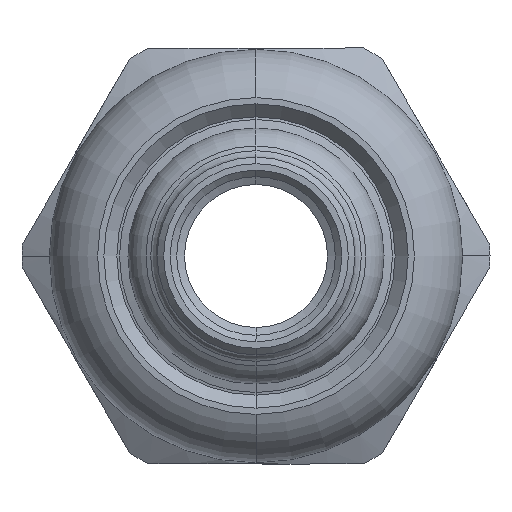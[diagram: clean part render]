
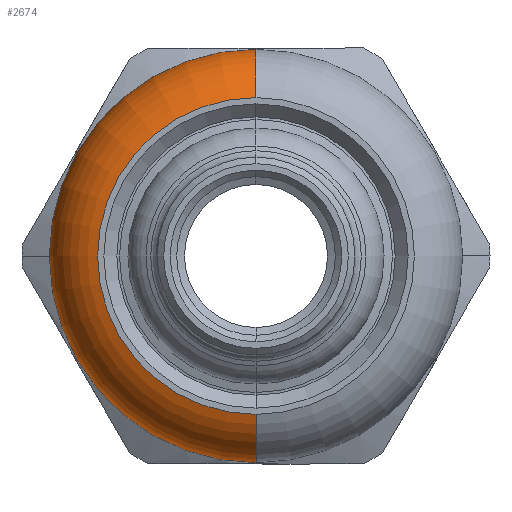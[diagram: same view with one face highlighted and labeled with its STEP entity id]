
A CAD part, left-side view. The second image highlights one B-rep face of the part: STEP entity #2674.
In plain terms, the highlighted toroidal (fillet/blend) face has major radius 10.4 mm and minor radius 5.5 mm.
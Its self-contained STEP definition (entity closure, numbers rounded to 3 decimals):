
#69 = ORIENTED_EDGE ( 'NONE', *, *, #3436, .T. ) ;
#273 = CIRCLE ( 'NONE', #2317, 5.5 ) ;
#333 = DIRECTION ( 'NONE',  ( 0., 0., 1. ) ) ;
#372 = CARTESIAN_POINT ( 'NONE',  ( 10.598, 0., -15.9 ) ) ;
#378 = CARTESIAN_POINT ( 'NONE',  ( 10.598, 0., -10.4 ) ) ;
#403 = VERTEX_POINT ( 'NONE', #372 ) ;
#422 = DIRECTION ( 'NONE',  ( 0., 1., 0. ) ) ;
#438 = CIRCLE ( 'NONE', #2145, 15.9 ) ;
#476 = DIRECTION ( 'NONE',  ( 0., 0., 1. ) ) ;
#1255 = AXIS2_PLACEMENT_3D ( 'NONE', #5310, #2144, #333 ) ;
#1289 = DIRECTION ( 'NONE',  ( 0., 0., 1. ) ) ;
#1333 = AXIS2_PLACEMENT_3D ( 'NONE', #3290, #3281, #3277 ) ;
#1425 = DIRECTION ( 'NONE',  ( 0., 0., -1. ) ) ;
#1640 = ORIENTED_EDGE ( 'NONE', *, *, #2333, .T. ) ;
#1653 = CARTESIAN_POINT ( 'NONE',  ( 10.598, 0., 15.9 ) ) ;
#1781 = VERTEX_POINT ( 'NONE', #1653 ) ;
#1976 = DIRECTION ( 'NONE',  ( -1., 0., 0. ) ) ;
#2114 = VERTEX_POINT ( 'NONE', #2421 ) ;
#2144 = DIRECTION ( 'NONE',  ( -1., 0., 0. ) ) ;
#2145 = AXIS2_PLACEMENT_3D ( 'NONE', #4534, #1976, #3669 ) ;
#2183 = CIRCLE ( 'NONE', #1255, 12.185 ) ;
#2317 = AXIS2_PLACEMENT_3D ( 'NONE', #378, #422, #476 ) ;
#2333 = EDGE_CURVE ( 'NONE', #2442, #403, #273, .T. ) ;
#2421 = CARTESIAN_POINT ( 'NONE',  ( 10.598, 15.9, 0. ) ) ;
#2442 = VERTEX_POINT ( 'NONE', #2874 ) ;
#2540 = DIRECTION ( 'NONE',  ( 0., -1., 0. ) ) ;
#2548 = EDGE_CURVE ( 'NONE', #1781, #2114, #3965, .T. ) ;
#2638 = FACE_OUTER_BOUND ( 'NONE', #4738, .T. ) ;
#2674 = ADVANCED_FACE ( 'NONE', ( #2638 ), #3830, .T. ) ;
#2874 = CARTESIAN_POINT ( 'NONE',  ( 15.8, 0., -12.185 ) ) ;
#2961 = AXIS2_PLACEMENT_3D ( 'NONE', #4055, #3664, #1289 ) ;
#2994 = ORIENTED_EDGE ( 'NONE', *, *, #5574, .F. ) ;
#3006 = ORIENTED_EDGE ( 'NONE', *, *, #2548, .F. ) ;
#3277 = DIRECTION ( 'NONE',  ( 0., 0., 1. ) ) ;
#3281 = DIRECTION ( 'NONE',  ( -1., 0., 0. ) ) ;
#3290 = CARTESIAN_POINT ( 'NONE',  ( 10.598, 0., 0. ) ) ;
#3436 = EDGE_CURVE ( 'NONE', #3913, #2442, #2183, .T. ) ;
#3542 = CARTESIAN_POINT ( 'NONE',  ( 15.8, 0., 12.185 ) ) ;
#3561 = CARTESIAN_POINT ( 'NONE',  ( 10.598, 0., 10.4 ) ) ;
#3664 = DIRECTION ( 'NONE',  ( -1., 0., 0. ) ) ;
#3669 = DIRECTION ( 'NONE',  ( 0., 0., 1. ) ) ;
#3830 = TOROIDAL_SURFACE ( 'NONE', #2961, 10.4, 5.5 ) ;
#3913 = VERTEX_POINT ( 'NONE', #3542 ) ;
#3965 = CIRCLE ( 'NONE', #1333, 15.9 ) ;
#4055 = CARTESIAN_POINT ( 'NONE',  ( 10.598, 0., 0. ) ) ;
#4466 = CIRCLE ( 'NONE', #5014, 5.5 ) ;
#4534 = CARTESIAN_POINT ( 'NONE',  ( 10.598, 0., 0. ) ) ;
#4738 = EDGE_LOOP ( 'NONE', ( #69, #1640, #2994, #3006, #5335 ) ) ;
#4751 = EDGE_CURVE ( 'NONE', #3913, #1781, #4466, .T. ) ;
#5014 = AXIS2_PLACEMENT_3D ( 'NONE', #3561, #2540, #1425 ) ;
#5310 = CARTESIAN_POINT ( 'NONE',  ( 15.8, 0., 0. ) ) ;
#5335 = ORIENTED_EDGE ( 'NONE', *, *, #4751, .F. ) ;
#5574 = EDGE_CURVE ( 'NONE', #2114, #403, #438, .T. ) ;
